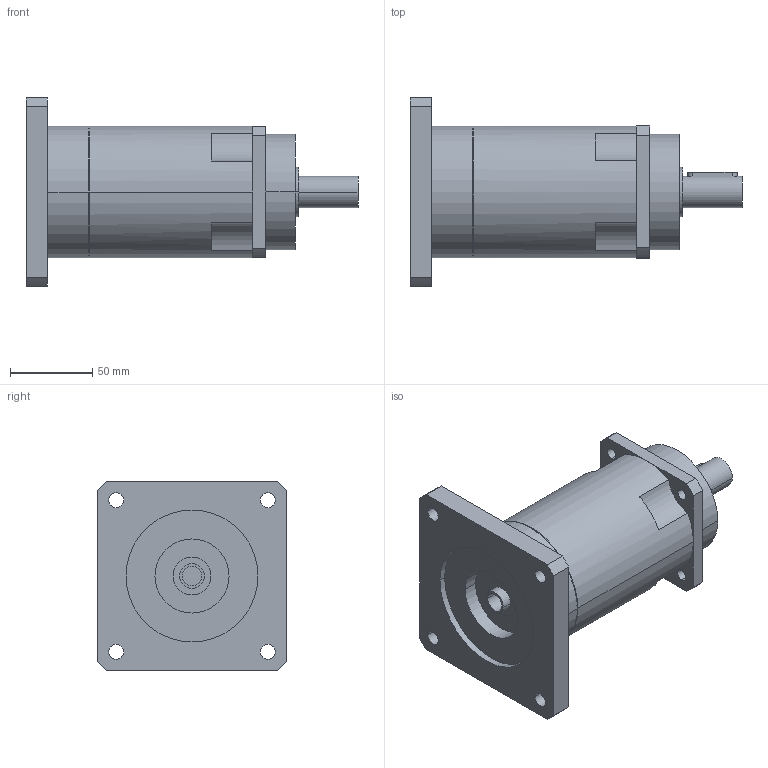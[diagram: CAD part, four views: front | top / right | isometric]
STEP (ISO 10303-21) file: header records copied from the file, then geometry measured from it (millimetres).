
FILE_DESCRIPTION(('CoCreate Modeling STEP Export'),'2;1');
FILE_NAME('GPR100_ig-48-64-80-100-120-144-180-216_19_B5_12_P30.stp','2014-08-26T11:53:45',(''),(''),'CoCreate Modeling STEP processor for AP214 (Solid Model)','CoCreate Modeling 16.00C 25-Feb-2009 (C) Parametric Technology GmbH','');
FILE_SCHEMA(('AUTOMOTIVE_DESIGN { 1 0 10303 214 1 1 1 1 }'));
Length unit declared in the file: millimetre
Products named in the file (2): GPR100_ig-48-64-80-100-120-144-180-216_19_B5_12_P30
Assembly tree (1 placements, depth 2):
  GPR100_ig-48-64-80-100-120-144-180-216_19_B5_12_P30
    GPR100_ig-48-64-80-100-120-144-180-216_19_B5_12_P30
Bounding box: 201.4 x 115 x 115 mm (x, y, z)
Volume: 879387.5 mm3; surface area: 80869.7 mm2
Topology: 1 solids, 1 shells, 89 faces, 238 edges, 160 vertices
Faces by surface type: cylinder 52, plane 31, cone 6
Entity records: 2567 total; most frequent: ORIENTED_EDGE 472, CARTESIAN_POINT 465, DIRECTION 386, EDGE_CURVE 236, VERTEX_POINT 160, AXIS2_PLACEMENT_3D 145, EDGE_LOOP 116, VECTOR 96
